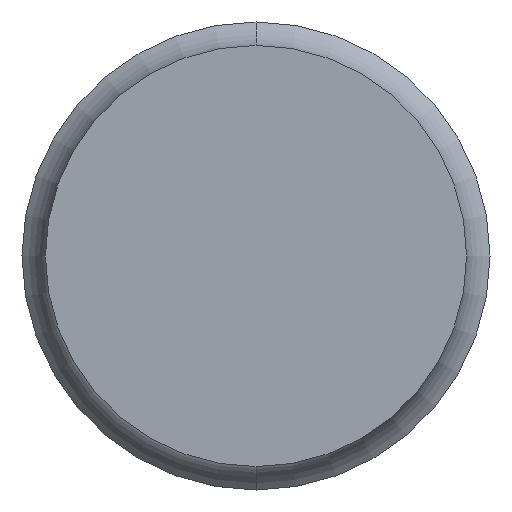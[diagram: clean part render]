
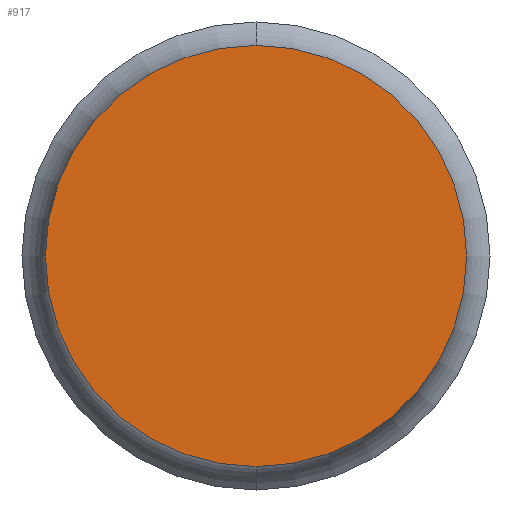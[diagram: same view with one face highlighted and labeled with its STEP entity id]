
A CAD part, front view. The second image highlights one B-rep face of the part: STEP entity #917.
In plain terms, the highlighted planar face has unit normal (0, -1, 0).
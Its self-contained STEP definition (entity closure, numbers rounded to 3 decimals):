
#84 = CARTESIAN_POINT ( 'NONE',  ( 0., -85., 22.5 ) ) ;
#115 = CARTESIAN_POINT ( 'NONE',  ( 0., -85., 0. ) ) ;
#137 = AXIS2_PLACEMENT_3D ( 'NONE', #503, #1109, #906 ) ;
#308 = VERTEX_POINT ( 'NONE', #84 ) ;
#413 = PLANE ( 'NONE',  #508 ) ;
#503 = CARTESIAN_POINT ( 'NONE',  ( 0., -85., 0. ) ) ;
#508 = AXIS2_PLACEMENT_3D ( 'NONE', #930, #1208, #1122 ) ;
#514 = DIRECTION ( 'NONE',  ( 0., -1., 0. ) ) ;
#517 = CARTESIAN_POINT ( 'NONE',  ( 0., -85., -22.5 ) ) ;
#552 = CIRCLE ( 'NONE', #137, 22.5 ) ;
#565 = EDGE_LOOP ( 'NONE', ( #754, #1005 ) ) ;
#727 = FACE_OUTER_BOUND ( 'NONE', #565, .T. ) ;
#754 = ORIENTED_EDGE ( 'NONE', *, *, #929, .T. ) ;
#762 = CIRCLE ( 'NONE', #824, 22.5 ) ;
#824 = AXIS2_PLACEMENT_3D ( 'NONE', #115, #514, #938 ) ;
#885 = EDGE_CURVE ( 'NONE', #1038, #308, #552, .T. ) ;
#906 = DIRECTION ( 'NONE',  ( 0., 0., -1. ) ) ;
#917 = ADVANCED_FACE ( 'NONE', ( #727 ), #413, .T. ) ;
#929 = EDGE_CURVE ( 'NONE', #308, #1038, #762, .T. ) ;
#930 = CARTESIAN_POINT ( 'NONE',  ( 0., -85., 0. ) ) ;
#938 = DIRECTION ( 'NONE',  ( 0., 0., -1. ) ) ;
#1005 = ORIENTED_EDGE ( 'NONE', *, *, #885, .T. ) ;
#1038 = VERTEX_POINT ( 'NONE', #517 ) ;
#1109 = DIRECTION ( 'NONE',  ( 0., -1., 0. ) ) ;
#1122 = DIRECTION ( 'NONE',  ( 0., 0., -1. ) ) ;
#1208 = DIRECTION ( 'NONE',  ( 0., -1., 0. ) ) ;
